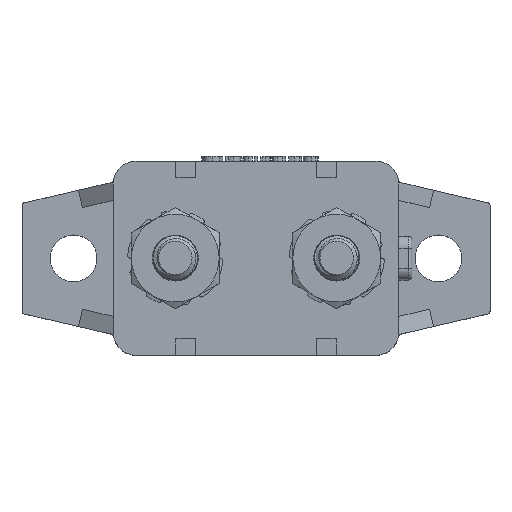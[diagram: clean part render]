
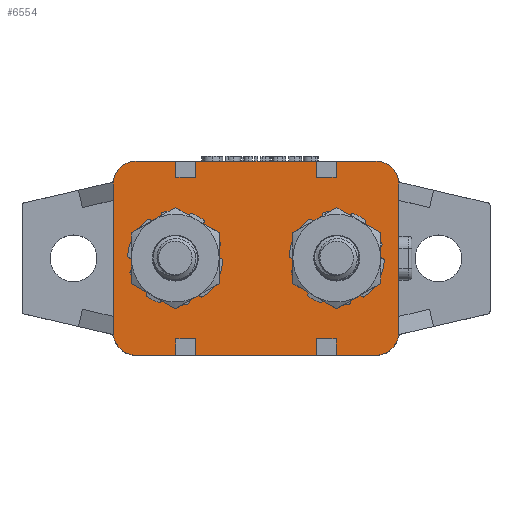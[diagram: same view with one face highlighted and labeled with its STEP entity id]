
A CAD part, top view. The second image highlights one B-rep face of the part: STEP entity #6554.
In plain terms, the highlighted planar face has unit normal (0, 0, 1).
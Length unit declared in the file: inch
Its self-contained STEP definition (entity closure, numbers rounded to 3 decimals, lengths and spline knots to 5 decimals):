
#700=PLANE('',#6968);
#939=FACE_OUTER_BOUND('',#1317,.T.);
#1317=EDGE_LOOP('',(#5391,#5392,#5393,#5394,#5395,#5396,#5397,#5398,#5399,
#5400,#5401,#5402,#5403,#5404,#5405,#5406,#5407,#5408,#5409,#5410,#5411,
#5412,#5413,#5414));
#1798=LINE('',#11022,#2272);
#1802=LINE('',#11030,#2276);
#1805=LINE('',#11036,#2279);
#1808=LINE('',#11043,#2282);
#1812=LINE('',#11051,#2286);
#1815=LINE('',#11057,#2289);
#1818=LINE('',#11064,#2292);
#1822=LINE('',#11072,#2296);
#1825=LINE('',#11078,#2299);
#1830=LINE('',#11087,#2304);
#1831=LINE('',#11090,#2305);
#1843=LINE('',#11120,#2317);
#1845=LINE('',#11123,#2319);
#1846=LINE('',#11127,#2320);
#1847=LINE('',#11131,#2321);
#1848=LINE('',#11133,#2322);
#1849=LINE('',#11135,#2323);
#1850=LINE('',#11136,#2324);
#1851=LINE('',#11138,#2325);
#1852=LINE('',#11142,#2326);
#2272=VECTOR('',#7910,0.3937);
#2276=VECTOR('',#7916,0.3937);
#2279=VECTOR('',#7921,0.3937);
#2282=VECTOR('',#7926,0.3937);
#2286=VECTOR('',#7932,0.3937);
#2289=VECTOR('',#7937,0.3937);
#2292=VECTOR('',#7942,0.3937);
#2296=VECTOR('',#7948,0.3937);
#2299=VECTOR('',#7953,0.3937);
#2304=VECTOR('',#7960,0.3937);
#2305=VECTOR('',#7963,0.3937);
#2317=VECTOR('',#7987,0.3937);
#2319=VECTOR('',#7991,0.3937);
#2320=VECTOR('',#7994,0.3937);
#2321=VECTOR('',#7997,0.3937);
#2322=VECTOR('',#7998,0.3937);
#2323=VECTOR('',#7999,0.3937);
#2324=VECTOR('',#8000,0.3937);
#2325=VECTOR('',#8001,0.3937);
#2326=VECTOR('',#8004,0.3937);
#2470=CIRCLE('',#6969,0.09843);
#2471=CIRCLE('',#6970,0.09843);
#2472=CIRCLE('',#6971,0.09843);
#2473=CIRCLE('',#6972,0.09843);
#2917=VERTEX_POINT('',#11020);
#2918=VERTEX_POINT('',#11021);
#2921=VERTEX_POINT('',#11029);
#2923=VERTEX_POINT('',#11035);
#2925=VERTEX_POINT('',#11041);
#2926=VERTEX_POINT('',#11042);
#2929=VERTEX_POINT('',#11050);
#2931=VERTEX_POINT('',#11056);
#2933=VERTEX_POINT('',#11062);
#2934=VERTEX_POINT('',#11063);
#2937=VERTEX_POINT('',#11071);
#2939=VERTEX_POINT('',#11077);
#2942=VERTEX_POINT('',#11085);
#2943=VERTEX_POINT('',#11089);
#2955=VERTEX_POINT('',#11119);
#2956=VERTEX_POINT('',#11124);
#2957=VERTEX_POINT('',#11126);
#2958=VERTEX_POINT('',#11128);
#2959=VERTEX_POINT('',#11130);
#2960=VERTEX_POINT('',#11132);
#2961=VERTEX_POINT('',#11134);
#2962=VERTEX_POINT('',#11137);
#2963=VERTEX_POINT('',#11139);
#2964=VERTEX_POINT('',#11141);
#3767=EDGE_CURVE('',#2917,#2918,#1798,.T.);
#3771=EDGE_CURVE('',#2921,#2917,#1802,.T.);
#3774=EDGE_CURVE('',#2923,#2921,#1805,.T.);
#3777=EDGE_CURVE('',#2925,#2926,#1808,.T.);
#3781=EDGE_CURVE('',#2929,#2925,#1812,.T.);
#3784=EDGE_CURVE('',#2931,#2929,#1815,.T.);
#3787=EDGE_CURVE('',#2933,#2934,#1818,.T.);
#3791=EDGE_CURVE('',#2937,#2933,#1822,.T.);
#3794=EDGE_CURVE('',#2934,#2939,#1825,.T.);
#3799=EDGE_CURVE('',#2926,#2942,#1830,.T.);
#3800=EDGE_CURVE('',#2943,#2923,#1831,.T.);
#3816=EDGE_CURVE('',#2955,#2937,#1843,.T.);
#3818=EDGE_CURVE('',#2918,#2931,#1845,.T.);
#3819=EDGE_CURVE('',#2956,#2942,#2470,.T.);
#3820=EDGE_CURVE('',#2956,#2957,#1846,.T.);
#3821=EDGE_CURVE('',#2958,#2957,#2471,.T.);
#3822=EDGE_CURVE('',#2958,#2959,#1847,.T.);
#3823=EDGE_CURVE('',#2959,#2960,#1848,.T.);
#3824=EDGE_CURVE('',#2960,#2961,#1849,.T.);
#3825=EDGE_CURVE('',#2961,#2955,#1850,.T.);
#3826=EDGE_CURVE('',#2939,#2962,#1851,.T.);
#3827=EDGE_CURVE('',#2963,#2962,#2472,.T.);
#3828=EDGE_CURVE('',#2963,#2964,#1852,.T.);
#3829=EDGE_CURVE('',#2943,#2964,#2473,.T.);
#5391=ORIENTED_EDGE('',*,*,#3774,.T.);
#5392=ORIENTED_EDGE('',*,*,#3771,.T.);
#5393=ORIENTED_EDGE('',*,*,#3767,.T.);
#5394=ORIENTED_EDGE('',*,*,#3818,.T.);
#5395=ORIENTED_EDGE('',*,*,#3784,.T.);
#5396=ORIENTED_EDGE('',*,*,#3781,.T.);
#5397=ORIENTED_EDGE('',*,*,#3777,.T.);
#5398=ORIENTED_EDGE('',*,*,#3799,.T.);
#5399=ORIENTED_EDGE('',*,*,#3819,.F.);
#5400=ORIENTED_EDGE('',*,*,#3820,.T.);
#5401=ORIENTED_EDGE('',*,*,#3821,.F.);
#5402=ORIENTED_EDGE('',*,*,#3822,.T.);
#5403=ORIENTED_EDGE('',*,*,#3823,.T.);
#5404=ORIENTED_EDGE('',*,*,#3824,.T.);
#5405=ORIENTED_EDGE('',*,*,#3825,.T.);
#5406=ORIENTED_EDGE('',*,*,#3816,.T.);
#5407=ORIENTED_EDGE('',*,*,#3791,.T.);
#5408=ORIENTED_EDGE('',*,*,#3787,.T.);
#5409=ORIENTED_EDGE('',*,*,#3794,.T.);
#5410=ORIENTED_EDGE('',*,*,#3826,.T.);
#5411=ORIENTED_EDGE('',*,*,#3827,.F.);
#5412=ORIENTED_EDGE('',*,*,#3828,.T.);
#5413=ORIENTED_EDGE('',*,*,#3829,.F.);
#5414=ORIENTED_EDGE('',*,*,#3800,.T.);
#6554=ADVANCED_FACE('',(#939),#700,.T.);
#6968=AXIS2_PLACEMENT_3D('',#11122,#7989,#7990);
#6969=AXIS2_PLACEMENT_3D('',#11125,#7992,#7993);
#6970=AXIS2_PLACEMENT_3D('',#11129,#7995,#7996);
#6971=AXIS2_PLACEMENT_3D('',#11140,#8002,#8003);
#6972=AXIS2_PLACEMENT_3D('',#11143,#8005,#8006);
#7910=DIRECTION('',(0.,-1.,0.));
#7916=DIRECTION('',(1.,0.,0.));
#7921=DIRECTION('',(0.,1.,0.));
#7926=DIRECTION('',(0.,-1.,0.));
#7932=DIRECTION('',(1.,0.,0.));
#7937=DIRECTION('',(0.,1.,0.));
#7942=DIRECTION('',(-1.,0.,0.));
#7948=DIRECTION('',(0.,-1.,0.));
#7953=DIRECTION('',(0.,1.,0.));
#7960=DIRECTION('',(1.,0.,0.));
#7963=DIRECTION('',(1.,0.,0.));
#7987=DIRECTION('',(-1.,0.,0.));
#7989=DIRECTION('center_axis',(0.,0.,1.));
#7990=DIRECTION('ref_axis',(1.,0.,0.));
#7991=DIRECTION('',(1.,0.,0.));
#7992=DIRECTION('center_axis',(0.,0.,-1.));
#7993=DIRECTION('ref_axis',(0.707,-0.707,0.));
#7994=DIRECTION('',(0.,1.,0.));
#7995=DIRECTION('center_axis',(0.,0.,-1.));
#7996=DIRECTION('ref_axis',(0.707,0.707,0.));
#7997=DIRECTION('',(-1.,0.,0.));
#7998=DIRECTION('',(0.,-1.,0.));
#7999=DIRECTION('',(-1.,0.,0.));
#8000=DIRECTION('',(0.,1.,0.));
#8001=DIRECTION('',(-1.,0.,0.));
#8002=DIRECTION('center_axis',(0.,0.,-1.));
#8003=DIRECTION('ref_axis',(-0.707,0.707,0.));
#8004=DIRECTION('',(0.,-1.,0.));
#8005=DIRECTION('center_axis',(0.,0.,-1.));
#8006=DIRECTION('ref_axis',(-0.707,-0.707,0.));
#11020=CARTESIAN_POINT('',(0.3525,0.07,0.65));
#11021=CARTESIAN_POINT('',(0.3525,0.,0.65));
#11022=CARTESIAN_POINT('',(0.3525,0.2425,0.65));
#11029=CARTESIAN_POINT('',(0.2675,0.07,0.65));
#11030=CARTESIAN_POINT('',(0.43875,0.07,0.65));
#11035=CARTESIAN_POINT('',(0.2675,0.,0.65));
#11036=CARTESIAN_POINT('',(0.2675,0.2075,0.65));
#11041=CARTESIAN_POINT('',(0.9525,0.07,0.65));
#11042=CARTESIAN_POINT('',(0.9525,0.,0.65));
#11043=CARTESIAN_POINT('',(0.9525,0.2425,0.65));
#11050=CARTESIAN_POINT('',(0.8675,0.07,0.65));
#11051=CARTESIAN_POINT('',(0.73875,0.07,0.65));
#11056=CARTESIAN_POINT('',(0.8675,0.,0.65));
#11057=CARTESIAN_POINT('',(0.8675,0.2075,0.65));
#11062=CARTESIAN_POINT('',(0.3525,0.76,0.65));
#11063=CARTESIAN_POINT('',(0.2675,0.76,0.65));
#11064=CARTESIAN_POINT('',(0.48125,0.76,0.65));
#11071=CARTESIAN_POINT('',(0.3525,0.83,0.65));
#11072=CARTESIAN_POINT('',(0.3525,0.6225,0.65));
#11077=CARTESIAN_POINT('',(0.2675,0.83,0.65));
#11078=CARTESIAN_POINT('',(0.2675,0.5875,0.65));
#11085=CARTESIAN_POINT('',(1.12157,0.,0.65));
#11087=CARTESIAN_POINT('',(1.22,0.,0.65));
#11089=CARTESIAN_POINT('',(0.09843,0.,0.65));
#11090=CARTESIAN_POINT('',(1.22,0.,0.65));
#11119=CARTESIAN_POINT('',(0.8675,0.83,0.65));
#11120=CARTESIAN_POINT('',(0.,0.83,0.65));
#11122=CARTESIAN_POINT('Origin',(0.61,0.415,0.65));
#11123=CARTESIAN_POINT('',(1.22,0.,0.65));
#11124=CARTESIAN_POINT('',(1.22,0.09843,0.65));
#11125=CARTESIAN_POINT('Origin',(1.12157,0.09843,0.65));
#11126=CARTESIAN_POINT('',(1.22,0.73157,0.65));
#11127=CARTESIAN_POINT('',(1.22,0.83,0.65));
#11128=CARTESIAN_POINT('',(1.12157,0.83,0.65));
#11129=CARTESIAN_POINT('Origin',(1.12157,0.73157,0.65));
#11130=CARTESIAN_POINT('',(0.9525,0.83,0.65));
#11131=CARTESIAN_POINT('',(0.,0.83,0.65));
#11132=CARTESIAN_POINT('',(0.9525,0.76,0.65));
#11133=CARTESIAN_POINT('',(0.9525,0.6225,0.65));
#11134=CARTESIAN_POINT('',(0.8675,0.76,0.65));
#11135=CARTESIAN_POINT('',(0.78125,0.76,0.65));
#11136=CARTESIAN_POINT('',(0.8675,0.5875,0.65));
#11137=CARTESIAN_POINT('',(0.09843,0.83,0.65));
#11138=CARTESIAN_POINT('',(0.,0.83,0.65));
#11139=CARTESIAN_POINT('',(0.,0.73157,0.65));
#11140=CARTESIAN_POINT('Origin',(0.09843,0.73157,0.65));
#11141=CARTESIAN_POINT('',(0.,0.09843,0.65));
#11142=CARTESIAN_POINT('',(0.,0.,
0.65));
#11143=CARTESIAN_POINT('Origin',(0.09843,0.09843,
0.65));
